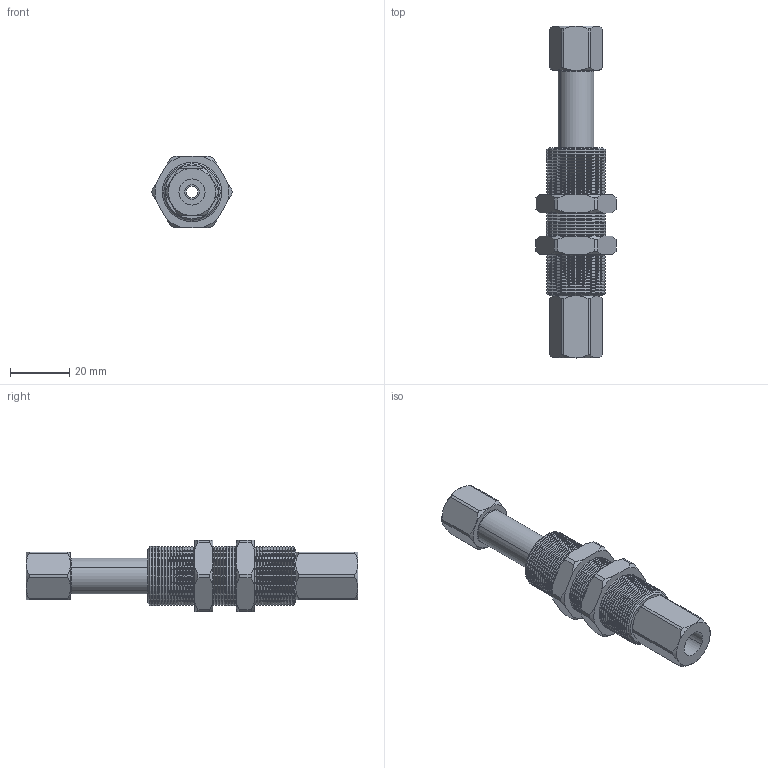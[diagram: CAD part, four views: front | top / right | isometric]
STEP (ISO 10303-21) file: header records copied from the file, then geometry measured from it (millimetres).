
FILE_DESCRIPTION (( 'STEP AP214' ), '1' );
FILE_NAME ('VFRT2026-G18.STEP', '2019-11-15T06:39:09', ( '微软用户' ), ( '微软中国' ), 'SwSTEP 2.0', 'SolidWorks 2016', '' );
FILE_SCHEMA (( 'AUTOMOTIVE_DESIGN' ));
Length unit declared in the file: millimetre
Products named in the file (1): VFRT2026-G18
Bounding box: 27 x 112 x 24 mm (x, y, z)
Volume: 24730.7 mm3; surface area: 17122.4 mm2
Topology: 5 solids, 5 shells, 492 faces, 1148 edges, 672 vertices
Faces by surface type: cone 284, cylinder 164, plane 40, bspline 4
Entity records: 20097 total; most frequent: CARTESIAN_POINT 3189, DIRECTION 2618, ORIENTED_EDGE 2296, EDGE_CURVE 1148, AXIS2_PLACEMENT_3D 1085, VERTEX_POINT 672, CIRCLE 596, EDGE_LOOP 508
